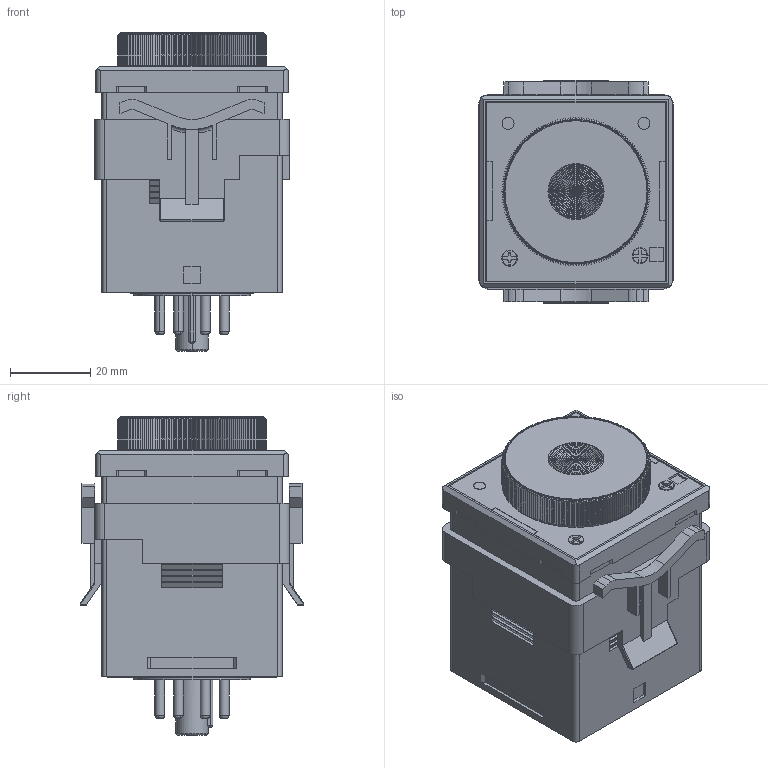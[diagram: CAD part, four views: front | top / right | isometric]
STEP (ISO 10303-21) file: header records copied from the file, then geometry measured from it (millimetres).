
FILE_DESCRIPTION (( 'STEP AP214' ), '1' );
FILE_NAME ('AT8DN.STEP', '2019-07-24T06:00:32', ( '' ), ( '' ), 'SwSTEP 2.0', 'SolidWorks 2018', '' );
FILE_SCHEMA (( 'AUTOMOTIVE_DESIGN' ));
Length unit declared in the file: millimetre
Products named in the file (1): AT8DN
Bounding box: 48.6 x 55.96 x 79.55 mm (x, y, z)
Volume: 127340 mm3; surface area: 31653.9 mm2
Topology: 3 solids, 11 shells, 2140 faces, 5096 edges, 3121 vertices
Faces by surface type: plane 1344, cone 303, bspline 278, cylinder 203, torus 10, sphere 2
Entity records: 90216 total; most frequent: CARTESIAN_POINT 18543, ORIENTED_EDGE 10184, DIRECTION 9548, EDGE_CURVE 5092, AXIS2_PLACEMENT_3D 3256, VERTEX_POINT 3121, LINE 3036, VECTOR 3036
